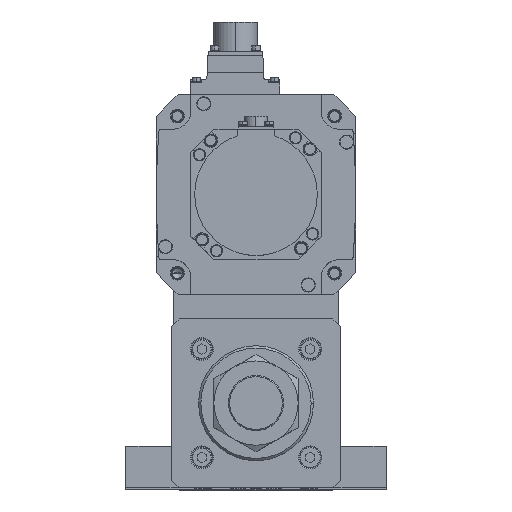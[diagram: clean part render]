
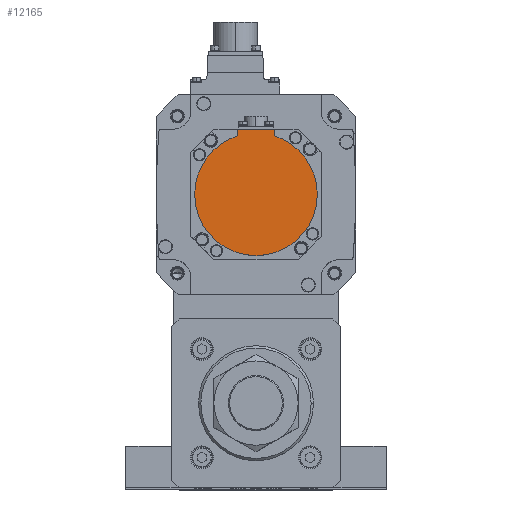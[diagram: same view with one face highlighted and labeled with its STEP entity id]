
A CAD part, top view. The second image highlights one B-rep face of the part: STEP entity #12165.
In plain terms, the highlighted planar face has unit normal (0, 0, 1) as drawn and (0, 0, -1) by its records, which use the part's own axes.
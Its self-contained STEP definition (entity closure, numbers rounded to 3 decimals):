
#124 = ORIENTED_EDGE ( 'NONE', *, *, #9377, .T. ) ;
#324 = VERTEX_POINT ( 'NONE', #29308 ) ;
#757 = ORIENTED_EDGE ( 'NONE', *, *, #13122, .F. ) ;
#2930 = CARTESIAN_POINT ( 'NONE',  ( -40., 0., -132.5 ) ) ;
#3213 = EDGE_CURVE ( 'NONE', #324, #31790, #16114, .T. ) ;
#4463 = VERTEX_POINT ( 'NONE', #8922 ) ;
#4969 = LINE ( 'NONE', #10012, #29841 ) ;
#6579 = CIRCLE ( 'NONE', #20410, 40. ) ;
#7377 = CARTESIAN_POINT ( 'NONE',  ( 12., -38.158, -132.5 ) ) ;
#7787 = DIRECTION ( 'NONE',  ( 1., 0., 0. ) ) ;
#8772 = CARTESIAN_POINT ( 'NONE',  ( -12., -38.158, -132.5 ) ) ;
#8922 = CARTESIAN_POINT ( 'NONE',  ( 40., 0., -132.5 ) ) ;
#9377 = EDGE_CURVE ( 'NONE', #11225, #12045, #26902, .T. ) ;
#10012 = CARTESIAN_POINT ( 'NONE',  ( 0., -42.5, -132.5 ) ) ;
#10619 = EDGE_CURVE ( 'NONE', #324, #11225, #4969, .T. ) ;
#11225 = VERTEX_POINT ( 'NONE', #16094 ) ;
#11947 = EDGE_CURVE ( 'NONE', #4463, #31455, #6579, .T. ) ;
#12045 = VERTEX_POINT ( 'NONE', #8772 ) ;
#12165 = ADVANCED_FACE ( 'NONE', ( #18322 ), #28174, .F. ) ;
#12447 = CIRCLE ( 'NONE', #31140, 40. ) ;
#13122 = EDGE_CURVE ( 'NONE', #31790, #4463, #33859, .T. ) ;
#14036 = DIRECTION ( 'NONE',  ( 1., 0., 0. ) ) ;
#14157 = DIRECTION ( 'NONE',  ( 0., 1., 0. ) ) ;
#14296 = ORIENTED_EDGE ( 'NONE', *, *, #3213, .F. ) ;
#16094 = CARTESIAN_POINT ( 'NONE',  ( -12., -42.5, -132.5 ) ) ;
#16114 = LINE ( 'NONE', #24902, #30033 ) ;
#16805 = VECTOR ( 'NONE', #23647, 1000. ) ;
#16995 = CARTESIAN_POINT ( 'NONE',  ( 0., 0., -132.5 ) ) ;
#17344 = CARTESIAN_POINT ( 'NONE',  ( 0., -1.249, -132.5 ) ) ;
#18322 = FACE_OUTER_BOUND ( 'NONE', #30352, .T. ) ;
#20410 = AXIS2_PLACEMENT_3D ( 'NONE', #16995, #33259, #14036 ) ;
#20868 = AXIS2_PLACEMENT_3D ( 'NONE', #17344, #30900, #25711 ) ;
#20881 = DIRECTION ( 'NONE',  ( -1., 0., 0. ) ) ;
#20922 = ORIENTED_EDGE ( 'NONE', *, *, #10619, .T. ) ;
#23148 = CARTESIAN_POINT ( 'NONE',  ( 0., 0., -132.5 ) ) ;
#23432 = ORIENTED_EDGE ( 'NONE', *, *, #24827, .F. ) ;
#23436 = ORIENTED_EDGE ( 'NONE', *, *, #11947, .F. ) ;
#23647 = DIRECTION ( 'NONE',  ( 0., 1., 0. ) ) ;
#24827 = EDGE_CURVE ( 'NONE', #31455, #12045, #12447, .T. ) ;
#24902 = CARTESIAN_POINT ( 'NONE',  ( 12., -1.249, -132.5 ) ) ;
#25711 = DIRECTION ( 'NONE',  ( 1., 0., 0. ) ) ;
#26490 = CARTESIAN_POINT ( 'NONE',  ( -12., -40.329, -132.5 ) ) ;
#26718 = DIRECTION ( 'NONE',  ( 0., 0., 1. ) ) ;
#26846 = CARTESIAN_POINT ( 'NONE',  ( 0., 0., -132.5 ) ) ;
#26902 = LINE ( 'NONE', #26490, #16805 ) ;
#28174 = PLANE ( 'NONE',  #20868 ) ;
#28451 = DIRECTION ( 'NONE',  ( 1., 0., 0. ) ) ;
#29308 = CARTESIAN_POINT ( 'NONE',  ( 12., -42.5, -132.5 ) ) ;
#29841 = VECTOR ( 'NONE', #20881, 1000. ) ;
#30033 = VECTOR ( 'NONE', #14157, 1000. ) ;
#30352 = EDGE_LOOP ( 'NONE', ( #124, #23432, #23436, #757, #14296, #20922 ) ) ;
#30900 = DIRECTION ( 'NONE',  ( 0., 0., 1. ) ) ;
#31140 = AXIS2_PLACEMENT_3D ( 'NONE', #26846, #26718, #7787 ) ;
#31455 = VERTEX_POINT ( 'NONE', #2930 ) ;
#31790 = VERTEX_POINT ( 'NONE', #7377 ) ;
#33259 = DIRECTION ( 'NONE',  ( 0., 0., 1. ) ) ;
#33769 = AXIS2_PLACEMENT_3D ( 'NONE', #23148, #34226, #28451 ) ;
#33859 = CIRCLE ( 'NONE', #33769, 40. ) ;
#34226 = DIRECTION ( 'NONE',  ( 0., 0., 1. ) ) ;
